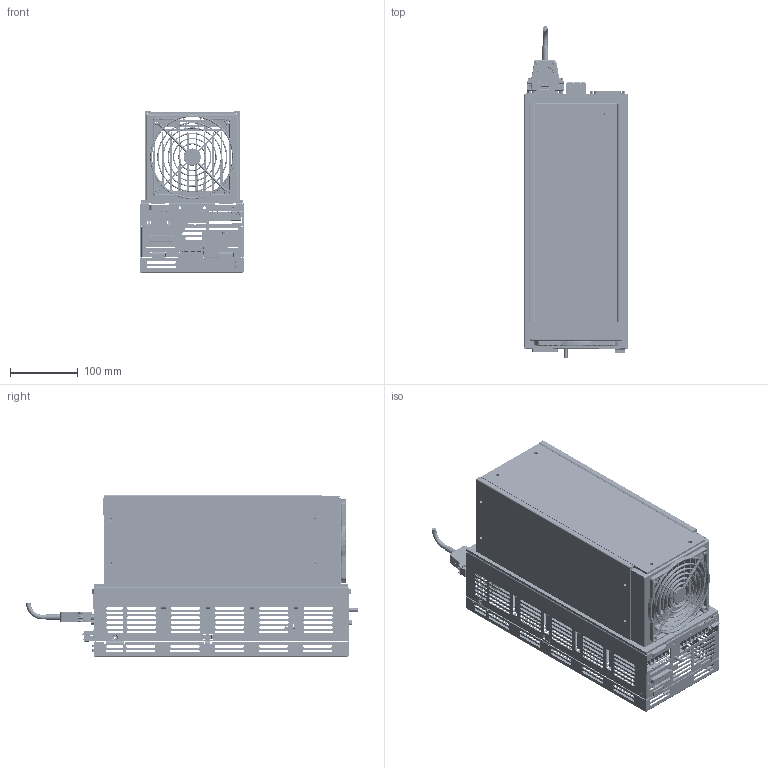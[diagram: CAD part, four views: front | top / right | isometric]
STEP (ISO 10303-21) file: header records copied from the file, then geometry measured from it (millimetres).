
FILE_DESCRIPTION (( 'STEP AP214' ), '1' );
FILE_NAME ('SDD215-23_(09-501-152-23).STEP', '2019-01-03T08:31:07', ( 'Windows-Benutzer' ), ( '' ), 'SwSTEP 2.0', 'SolidWorks 2018', '' );
FILE_SCHEMA (( 'AUTOMOTIVE_DESIGN' ));
Length unit declared in the file: millimetre
Products named in the file (29): Dichtung; PC 4_6-G-7,62; 82600_step f〉 Kunde; D_sub 25p_F; 1010801103 Ballastwid 33ohm 43cm; 1953774; VAC013 kpl; Abdeckblech Phönix-Buchse; Gehäuseschale; Lüfterblech; ZExxxx-4339-x1 Abschirmblech; Abdeckblech; Basisblech; Abstandsbolzen GBM UNC4-4005IA4,8 Ms-vernickel; SDD215-23_(09-501-152-23); 82700_step f〉 kunde; K黨lk鰎per; PC 4_8-G-7,62; VAC014 Front; L黤tereinheit_step f乺 kunde; 4070212048-1 D-SUB 25pol 1658610-2; 4110260022 8pol.Federkraftstecker 1reih. 1952322; Sicherungsklammer neu; D-Sub_25pol_2-Reih; 3030202109 Lüftergitter; MSTB 2,5_3-G-5,08; 4060212239 RJ45 09 35 002 2101; Dummy Mini IO (Harting)
Assembly tree (33 placements, depth 3):
  SDD215-23_(09-501-152-23)
    82600_step f〉 Kunde
      PC 4_6-G-7,62  x2
      MSTB 2,5_3-G-5,08
      PC 4_8-G-7,62
    82700_step f〉 kunde
      D_sub 25p_F
    VAC013 kpl
      VAC014 Front
      4060212239 RJ45 09 35 002 2101  x2
      1953774
    K黨lk鰎per
    Gehäuseschale
    Dichtung
    Basisblech
      Basisblech
      1010801103 Ballastwid 33ohm 43cm
    L黤tereinheit_step f乺 kunde
      Lüfterblech
      3030202109 Lüftergitter
    Abdeckblech
    Sicherungsklammer neu
    4070212048-1 D-SUB 25pol 1658610-2  x2
    Abdeckblech Phönix-Buchse
    ZExxxx-4339-x1 Abschirmblech
    Abstandsbolzen GBM UNC4-4005IA4,8 Ms-vernickel  x2
    D-Sub_25pol_2-Reih
    Dummy Mini IO (Harting)
    4110260022 8pol.Federkraftstecker 1reih. 1952322  x2
Bounding box: 152.4 x 488.46 x 238.78 mm (x, y, z)
Volume: 2550763.8 mm3; surface area: 1631564.1 mm2
Topology: 32 solids, 32 shells, 9875 faces, 26184 edges, 16835 vertices
Faces by surface type: plane 6035, cylinder 2939, cone 369, torus 318, bspline 154, sphere 60
Entity records: 285370 total; most frequent: CARTESIAN_POINT 56821, ORIENTED_EDGE 44652, DIRECTION 43138, EDGE_CURVE 22326, VECTOR 15402, LINE 15402, VERTEX_POINT 14333, AXIS2_PLACEMENT_3D 13868
